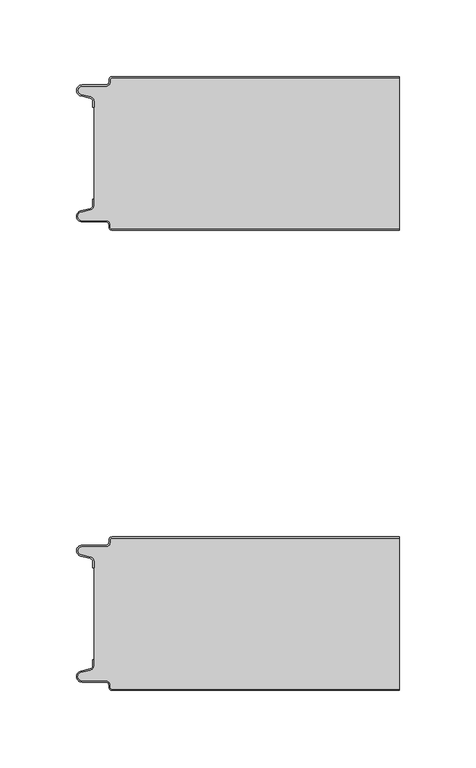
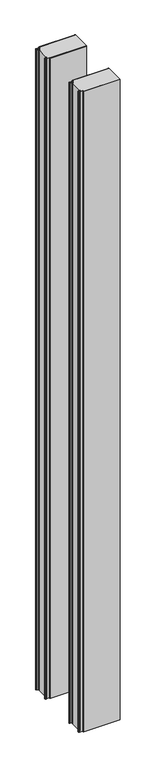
"""IFC4 building model written with IfcOpenShell, lengths in millimetres: plate geometry, Curtain-Panel_Doble-Panel-Acústico_Perfil-liso-PMH : ACH_Doble-Panel-Acústico_PMH_100-200-100."""

from ifc_helpers import new_model, si_unit, point, frame_2d, origin, origin_with_axes, place, context, project, spatial, polyline, circle_curve, trimmed, segment, composite_curve, outline, extrude, source, transform, mapped, element, save


def plate_cdc7bbb9(model_context):
    return source(origin(), model_context, "Body", "SweptSolid", [
        extrude(outline(composite_curve([segment(trimmed(circle_curve(frame_2d((-87.4, -302.0)), 1.2), [point((-87.4, -300.8))], [point((-88.6, -302.0))], True, "CARTESIAN"), True, "CONTINUOUS"), segment(polyline([(-88.6, -302.0), (-88.6, -303.4)]), True, "CONTINUOUS"), segment(trimmed(circle_curve(frame_2d((-91.4, -303.4)), 2.8), [point((-88.6, -303.4))], [point((-91.4, -306.2))], False, "CARTESIAN"), True, "CONTINUOUS"), segment(polyline([(-91.4, -306.2), (-106.9, -306.2)]), True, "CONTINUOUS"), segment(trimmed(circle_curve(frame_2d((-106.9, -309.0)), 2.8), [point((-106.9, -306.2))], [point((-107.529863, -311.7282362))], True, "CARTESIAN"), True, "CONTINUOUS"), segment(polyline([(-107.529863, -311.7282362), (-101.370137, -313.150321)]), True, "CONTINUOUS"), segment(trimmed(circle_curve(frame_2d((-102.0, -315.878557)), 2.8), [point((-101.370137, -313.150321))], [point((-99.2, -315.878557))], False, "CARTESIAN"), True, "CONTINUOUS"), segment(polyline([(-99.2, -315.878557), (-99.2, -320.0), (-100.0, -320.0), (-100.0, -315.878557)]), True, "CONTINUOUS"), segment(trimmed(circle_curve(frame_2d((-102.0, -315.878557)), 2.0), [point((-100.0, -315.878557))], [point((-101.5500978, -313.9298169))], True, "CARTESIAN"), True, "CONTINUOUS"), segment(polyline([(-101.5500978, -313.9298169), (-107.7098239, -312.507732)]), True, "CONTINUOUS"), segment(trimmed(circle_curve(frame_2d((-106.9, -309.0)), 3.6), [point((-107.7098239, -312.507732))], [point((-106.9, -305.4))], False, "CARTESIAN"), True, "CONTINUOUS"), segment(polyline([(-106.9, -305.4), (-91.4, -305.4)]), True, "CONTINUOUS"), segment(trimmed(circle_curve(frame_2d((-91.4, -303.4)), 2.0), [point((-91.4, -305.4))], [point((-89.4, -303.4))], True, "CARTESIAN"), True, "CONTINUOUS"), segment(polyline([(-89.4, -303.4), (-89.4, -302.0)]), True, "CONTINUOUS"), segment(trimmed(circle_curve(frame_2d((-87.4, -302.0)), 2.0), [point((-89.4, -302.0))], [point((-87.4, -300.0))], False, "CARTESIAN"), True, "CONTINUOUS"), segment(polyline([(-87.4, -300.0), (100.0, -300.0), (100.0, -300.8), (-87.4, -300.8)]), True, "CONTINUOUS")], self_intersect=False)), origin_with_axes(), (0.0, 0.0, 1.0), 3500.0),
        extrude(outline(composite_curve([segment(polyline([(-99.2, -384.1214426), (-99.2, -315.8785573)]), True, "CONTINUOUS"), segment(trimmed(circle_curve(frame_2d((-102.0, -315.8785573)), 2.8), [point((-99.2, -315.8785573))], [point((-101.370137, -313.1503212))], True, "CARTESIAN"), True, "CONTINUOUS"), segment(polyline([(-101.370137, -313.1503212), (-107.5298631, -311.7282362)]), True, "CONTINUOUS"), segment(trimmed(circle_curve(frame_2d((-106.9, -309.0)), 2.8), [point((-107.5298631, -311.7282362))], [point((-106.9, -306.2))], False, "CARTESIAN"), True, "CONTINUOUS"), segment(polyline([(-106.9, -306.2), (-91.4000001, -306.2)]), True, "CONTINUOUS"), segment(trimmed(circle_curve(frame_2d((-91.4000001, -303.4)), 2.8), [point((-91.4000001, -306.2))], [point((-88.6000001, -303.4))], True, "CARTESIAN"), True, "CONTINUOUS"), segment(polyline([(-88.6000001, -303.4), (-88.6000001, -302.0)]), True, "CONTINUOUS"), segment(trimmed(circle_curve(frame_2d((-87.4000001, -302.0)), 1.2), [point((-88.6000001, -302.0))], [point((-87.4000001, -300.8))], False, "CARTESIAN"), True, "CONTINUOUS"), segment(polyline([(-87.4000001, -300.8), (100.0, -300.8), (100.0, -399.2), (-87.4000001, -399.2)]), True, "CONTINUOUS"), segment(trimmed(circle_curve(frame_2d((-87.4000001, -398.0)), 1.2), [point((-87.4000001, -399.2))], [point((-88.6000001, -398.0))], False, "CARTESIAN"), True, "CONTINUOUS"), segment(polyline([(-88.6000001, -398.0), (-88.6000001, -396.6)]), True, "CONTINUOUS"), segment(trimmed(circle_curve(frame_2d((-91.4000001, -396.6)), 2.8), [point((-88.6000001, -396.6))], [point((-91.4000001, -393.8))], True, "CARTESIAN"), True, "CONTINUOUS"), segment(polyline([(-91.4000001, -393.8), (-106.9, -393.8)]), True, "CONTINUOUS"), segment(trimmed(circle_curve(frame_2d((-106.9, -391.0)), 2.8), [point((-106.9, -393.8))], [point((-107.5298631, -388.2717638))], False, "CARTESIAN"), True, "CONTINUOUS"), segment(polyline([(-107.5298631, -388.2717638), (-101.370137, -386.8496788)]), True, "CONTINUOUS"), segment(trimmed(circle_curve(frame_2d((-102.0, -384.1214426)), 2.8), [point((-101.370137, -386.8496788))], [point((-99.2, -384.1214426))], True, "CARTESIAN"), True, "CONTINUOUS")], self_intersect=False)), origin_with_axes(), (0.0, 0.0, 1.0), 3500.0),
        extrude(outline(composite_curve([segment(trimmed(circle_curve(frame_2d((-87.4, -398.0)), 2.0), [point((-87.4, -400.0))], [point((-89.4, -398.0))], False, "CARTESIAN"), True, "CONTINUOUS"), segment(polyline([(-89.4, -398.0), (-89.4, -396.6)]), True, "CONTINUOUS"), segment(trimmed(circle_curve(frame_2d((-91.4, -396.6)), 2.0), [point((-89.4, -396.6))], [point((-91.4, -394.6))], True, "CARTESIAN"), True, "CONTINUOUS"), segment(polyline([(-91.4, -394.6), (-106.9, -394.6)]), True, "CONTINUOUS"), segment(trimmed(circle_curve(frame_2d((-106.9, -391.0)), 3.6), [point((-106.9, -394.6))], [point((-107.7098239, -387.4922678))], False, "CARTESIAN"), True, "CONTINUOUS"), segment(polyline([(-107.7098239, -387.4922678), (-101.5500979, -386.070183)]), True, "CONTINUOUS"), segment(trimmed(circle_curve(frame_2d((-102.0, -384.121443)), 2.0), [point((-101.5500979, -386.070183))], [point((-100.0, -384.121443))], True, "CARTESIAN"), True, "CONTINUOUS"), segment(polyline([(-100.0, -384.121443), (-100.0, -380.0), (-99.2, -380.0), (-99.2, -384.121443)]), True, "CONTINUOUS"), segment(trimmed(circle_curve(frame_2d((-102.0, -384.121443)), 2.8), [point((-99.2, -384.121443))], [point((-101.370137, -386.8496792))], False, "CARTESIAN"), True, "CONTINUOUS"), segment(polyline([(-101.370137, -386.8496792), (-107.529863, -388.271764)]), True, "CONTINUOUS"), segment(trimmed(circle_curve(frame_2d((-106.9, -391.0)), 2.8), [point((-107.529863, -388.271764))], [point((-106.9, -393.8))], True, "CARTESIAN"), True, "CONTINUOUS"), segment(polyline([(-106.9, -393.8), (-91.4, -393.8)]), True, "CONTINUOUS"), segment(trimmed(circle_curve(frame_2d((-91.4, -396.6)), 2.8), [point((-91.4, -393.8))], [point((-88.6, -396.6))], False, "CARTESIAN"), True, "CONTINUOUS"), segment(polyline([(-88.6, -396.6), (-88.6, -398.0)]), True, "CONTINUOUS"), segment(trimmed(circle_curve(frame_2d((-87.4, -398.0)), 1.2), [point((-88.6, -398.0))], [point((-87.4, -399.2))], True, "CARTESIAN"), True, "CONTINUOUS"), segment(polyline([(-87.4, -399.2), (100.0, -399.2), (100.0, -400.0), (-87.4, -400.0)]), True, "CONTINUOUS")], self_intersect=False)), origin_with_axes(), (0.0, 0.0, 1.0), 3500.0),
        extrude(outline(composite_curve([segment(trimmed(circle_curve(frame_2d((-87.4, -2.0)), 1.2), [point((-87.4, -0.8))], [point((-88.6, -2.0))], True, "CARTESIAN"), True, "CONTINUOUS"), segment(polyline([(-88.6, -2.0), (-88.6, -3.4)]), True, "CONTINUOUS"), segment(trimmed(circle_curve(frame_2d((-91.4, -3.4)), 2.8), [point((-88.6, -3.4))], [point((-91.4, -6.2))], False, "CARTESIAN"), True, "CONTINUOUS"), segment(polyline([(-91.4, -6.2), (-106.9, -6.2)]), True, "CONTINUOUS"), segment(trimmed(circle_curve(frame_2d((-106.9, -9.0)), 2.8), [point((-106.9, -6.2))], [point((-107.529863, -11.7282362))], True, "CARTESIAN"), True, "CONTINUOUS"), segment(polyline([(-107.529863, -11.7282362), (-101.370137, -13.150321)]), True, "CONTINUOUS"), segment(trimmed(circle_curve(frame_2d((-102.0, -15.878557)), 2.8), [point((-101.370137, -13.150321))], [point((-99.2, -15.878557))], False, "CARTESIAN"), True, "CONTINUOUS"), segment(polyline([(-99.2, -15.878557), (-99.2, -20.0), (-100.0, -20.0), (-100.0, -15.878557)]), True, "CONTINUOUS"), segment(trimmed(circle_curve(frame_2d((-102.0, -15.878557)), 2.0), [point((-100.0, -15.878557))], [point((-101.5500978, -13.9298169))], True, "CARTESIAN"), True, "CONTINUOUS"), segment(polyline([(-101.5500978, -13.9298169), (-107.7098239, -12.507732)]), True, "CONTINUOUS"), segment(trimmed(circle_curve(frame_2d((-106.9, -9.0)), 3.6), [point((-107.7098239, -12.507732))], [point((-106.9, -5.4))], False, "CARTESIAN"), True, "CONTINUOUS"), segment(polyline([(-106.9, -5.4), (-91.4, -5.4)]), True, "CONTINUOUS"), segment(trimmed(circle_curve(frame_2d((-91.4, -3.4)), 2.0), [point((-91.4, -5.4))], [point((-89.4, -3.4))], True, "CARTESIAN"), True, "CONTINUOUS"), segment(polyline([(-89.4, -3.4), (-89.4, -2.0)]), True, "CONTINUOUS"), segment(trimmed(circle_curve(frame_2d((-87.4, -2.0)), 2.0), [point((-89.4, -2.0))], [point((-87.4, 0.0))], False, "CARTESIAN"), True, "CONTINUOUS"), segment(polyline([(-87.4, 0.0), (100.0, 0.0), (100.0, -0.8), (-87.4, -0.8)]), True, "CONTINUOUS")], self_intersect=False)), origin_with_axes(), (0.0, 0.0, 1.0), 3500.0),
        extrude(outline(composite_curve([segment(polyline([(-99.2, -84.1214426), (-99.2, -15.8785573)]), True, "CONTINUOUS"), segment(trimmed(circle_curve(frame_2d((-102.0, -15.8785573)), 2.8), [point((-99.2, -15.8785573))], [point((-101.370137, -13.1503212))], True, "CARTESIAN"), True, "CONTINUOUS"), segment(polyline([(-101.370137, -13.1503212), (-107.5298631, -11.7282362)]), True, "CONTINUOUS"), segment(trimmed(circle_curve(frame_2d((-106.9, -9.0)), 2.8), [point((-107.5298631, -11.7282362))], [point((-106.9, -6.2))], False, "CARTESIAN"), True, "CONTINUOUS"), segment(polyline([(-106.9, -6.2), (-91.4000001, -6.2)]), True, "CONTINUOUS"), segment(trimmed(circle_curve(frame_2d((-91.4000001, -3.4)), 2.8), [point((-91.4000001, -6.2))], [point((-88.6000001, -3.4))], True, "CARTESIAN"), True, "CONTINUOUS"), segment(polyline([(-88.6000001, -3.4), (-88.6000001, -2.0)]), True, "CONTINUOUS"), segment(trimmed(circle_curve(frame_2d((-87.4000001, -2.0)), 1.2), [point((-88.6000001, -2.0))], [point((-87.4000001, -0.8))], False, "CARTESIAN"), True, "CONTINUOUS"), segment(polyline([(-87.4000001, -0.8), (100.0, -0.8), (100.0, -99.2), (-87.4000001, -99.2)]), True, "CONTINUOUS"), segment(trimmed(circle_curve(frame_2d((-87.4000001, -98.0)), 1.2), [point((-87.4000001, -99.2))], [point((-88.6000001, -98.0))], False, "CARTESIAN"), True, "CONTINUOUS"), segment(polyline([(-88.6000001, -98.0), (-88.6000001, -96.6)]), True, "CONTINUOUS"), segment(trimmed(circle_curve(frame_2d((-91.4000001, -96.6)), 2.8), [point((-88.6000001, -96.6))], [point((-91.4000001, -93.8))], True, "CARTESIAN"), True, "CONTINUOUS"), segment(polyline([(-91.4000001, -93.8), (-106.9, -93.8)]), True, "CONTINUOUS"), segment(trimmed(circle_curve(frame_2d((-106.9, -91.0)), 2.8), [point((-106.9, -93.8))], [point((-107.5298631, -88.2717638))], False, "CARTESIAN"), True, "CONTINUOUS"), segment(polyline([(-107.5298631, -88.2717638), (-101.370137, -86.8496788)]), True, "CONTINUOUS"), segment(trimmed(circle_curve(frame_2d((-102.0, -84.1214426)), 2.8), [point((-101.370137, -86.8496788))], [point((-99.2, -84.1214426))], True, "CARTESIAN"), True, "CONTINUOUS")], self_intersect=False)), origin_with_axes(), (0.0, 0.0, 1.0), 3500.0),
        extrude(outline(composite_curve([segment(trimmed(circle_curve(frame_2d((-87.4, -98.0)), 2.0), [point((-87.4, -100.0))], [point((-89.4, -98.0))], False, "CARTESIAN"), True, "CONTINUOUS"), segment(polyline([(-89.4, -98.0), (-89.4, -96.6)]), True, "CONTINUOUS"), segment(trimmed(circle_curve(frame_2d((-91.4, -96.6)), 2.0), [point((-89.4, -96.6))], [point((-91.4, -94.6))], True, "CARTESIAN"), True, "CONTINUOUS"), segment(polyline([(-91.4, -94.6), (-106.9, -94.6)]), True, "CONTINUOUS"), segment(trimmed(circle_curve(frame_2d((-106.9, -91.0)), 3.6), [point((-106.9, -94.6))], [point((-107.7098239, -87.4922678))], False, "CARTESIAN"), True, "CONTINUOUS"), segment(polyline([(-107.7098239, -87.4922678), (-101.5500979, -86.070183)]), True, "CONTINUOUS"), segment(trimmed(circle_curve(frame_2d((-102.0, -84.121443)), 2.0), [point((-101.5500979, -86.070183))], [point((-100.0, -84.121443))], True, "CARTESIAN"), True, "CONTINUOUS"), segment(polyline([(-100.0, -84.121443), (-100.0, -80.0), (-99.2, -80.0), (-99.2, -84.121443)]), True, "CONTINUOUS"), segment(trimmed(circle_curve(frame_2d((-102.0, -84.121443)), 2.8), [point((-99.2, -84.121443))], [point((-101.370137, -86.8496792))], False, "CARTESIAN"), True, "CONTINUOUS"), segment(polyline([(-101.370137, -86.8496792), (-107.529863, -88.271764)]), True, "CONTINUOUS"), segment(trimmed(circle_curve(frame_2d((-106.9, -91.0)), 2.8), [point((-107.529863, -88.271764))], [point((-106.9, -93.8))], True, "CARTESIAN"), True, "CONTINUOUS"), segment(polyline([(-106.9, -93.8), (-91.4, -93.8)]), True, "CONTINUOUS"), segment(trimmed(circle_curve(frame_2d((-91.4, -96.6)), 2.8), [point((-91.4, -93.8))], [point((-88.6, -96.6))], False, "CARTESIAN"), True, "CONTINUOUS"), segment(polyline([(-88.6, -96.6), (-88.6, -98.0)]), True, "CONTINUOUS"), segment(trimmed(circle_curve(frame_2d((-87.4, -98.0)), 1.2), [point((-88.6, -98.0))], [point((-87.4, -99.2))], True, "CARTESIAN"), True, "CONTINUOUS"), segment(polyline([(-87.4, -99.2), (100.0, -99.2), (100.0, -100.0), (-87.4, -100.0)]), True, "CONTINUOUS")], self_intersect=False)), origin_with_axes(), (0.0, 0.0, 1.0), 3500.0),
    ])


if __name__ == "__main__":
    model = new_model("IFC4")
    model_context = context("Model", 3, world=origin())
    ifc_project = project(units=[si_unit("LENGTHUNIT", "METRE", prefix="MILLI")], contexts=[model_context])
    site = spatial("IfcSite", under=ifc_project)
    building = spatial("IfcBuilding", under=site)
    placement = place(None, origin())
    plate_shape = plate_cdc7bbb9(model_context)
    element("IfcPlate", 1, ObjectType="Curtain-Panel_Doble-Panel-Acústico_Perfil-liso-PMH : ACH_Doble-Panel-Acústico_PMH_100-200-100", at=placement, inside=building, context=model_context, shape_type="MappedRepresentation", body=[
        mapped(plate_shape, transform((0.0, 0.0, 0.0), x_axis=(1.0, 0.0, 0.0), y_axis=(0.0, 1.0, 0.0), z_axis=(0.0, 0.0, 1.0))),
    ])
    save(model, "model.ifc")
